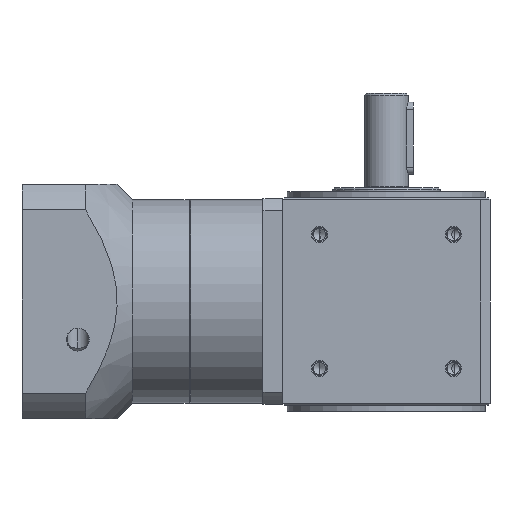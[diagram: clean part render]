
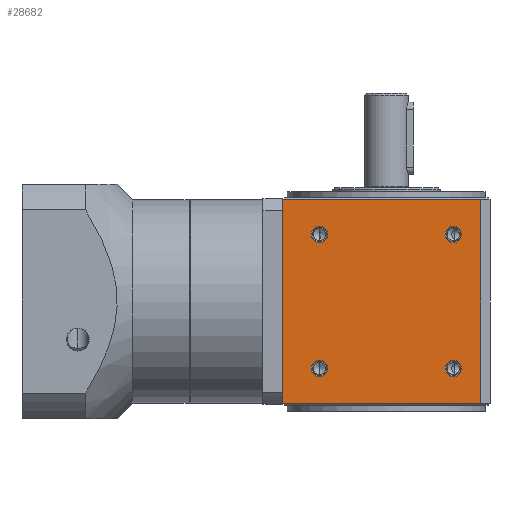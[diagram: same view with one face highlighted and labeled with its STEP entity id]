
A CAD part, front view. The second image highlights one B-rep face of the part: STEP entity #28682.
In plain terms, the highlighted planar face has unit normal (0, -1, 0).
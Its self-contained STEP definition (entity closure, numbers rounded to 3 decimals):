
#23321 = CARTESIAN_POINT ( 'NONE',  ( -37.123, -57.5, 98.123 ) ) ;
#23322 = CARTESIAN_POINT ( 'NONE',  ( -37.123, -57.5, 93.623 ) ) ;
#23402 = CIRCLE ( 'NONE', #23538, 4.5 ) ;
#23502 = CARTESIAN_POINT ( 'NONE',  ( -37.123, -57.5, 102.623 ) ) ;
#23503 = DIRECTION ( 'NONE',  ( 0., 0., 1. ) ) ;
#23504 = DIRECTION ( 'NONE',  ( 0., -1., 0. ) ) ;
#23505 = AXIS2_PLACEMENT_3D ( 'NONE', #23321, #23504, #23503 ) ;
#23506 = CIRCLE ( 'NONE', #23505, 4.5 ) ;
#23534 = CARTESIAN_POINT ( 'NONE',  ( -37.123, -57.5, 28.377 ) ) ;
#23535 = DIRECTION ( 'NONE',  ( 0., 0., 1. ) ) ;
#23536 = DIRECTION ( 'NONE',  ( 0., -1., 0. ) ) ;
#23537 = CARTESIAN_POINT ( 'NONE',  ( -37.123, -57.5, 23.877 ) ) ;
#23538 = AXIS2_PLACEMENT_3D ( 'NONE', #23537, #23536, #23535 ) ;
#23921 = CARTESIAN_POINT ( 'NONE',  ( 37.123, -57.5, 102.623 ) ) ;
#23922 = DIRECTION ( 'NONE',  ( 0., 0., 1. ) ) ;
#23923 = DIRECTION ( 'NONE',  ( 0., -1., 0. ) ) ;
#23924 = CARTESIAN_POINT ( 'NONE',  ( 37.123, -57.5, 98.123 ) ) ;
#23925 = AXIS2_PLACEMENT_3D ( 'NONE', #23924, #23923, #23922 ) ;
#23926 = CIRCLE ( 'NONE', #23925, 4.5 ) ;
#23927 = CARTESIAN_POINT ( 'NONE',  ( 37.123, -57.5, 93.623 ) ) ;
#24350 = DIRECTION ( 'NONE',  ( 0., 0., 1. ) ) ;
#24351 = DIRECTION ( 'NONE',  ( 0., -1., 0. ) ) ;
#24352 = CARTESIAN_POINT ( 'NONE',  ( -37.123, -57.5, 98.123 ) ) ;
#24353 = AXIS2_PLACEMENT_3D ( 'NONE', #24352, #24351, #24350 ) ;
#24354 = CIRCLE ( 'NONE', #24353, 4.5 ) ;
#24423 = DIRECTION ( 'NONE',  ( 0., 0., -1. ) ) ;
#24424 = DIRECTION ( 'NONE',  ( 0., 1., 0. ) ) ;
#24425 = AXIS2_PLACEMENT_3D ( 'NONE', #24427, #24424, #24423 ) ;
#24427 = CARTESIAN_POINT ( 'NONE',  ( 57.5, -57.5, 122. ) ) ;
#24428 = PLANE ( 'NONE',  #24425 ) ;
#24429 = FACE_OUTER_BOUND ( 'NONE', #28651, .T. ) ;
#24430 = FACE_BOUND ( 'NONE', #28706, .T. ) ;
#24431 = FACE_BOUND ( 'NONE', #28702, .T. ) ;
#24432 = FACE_BOUND ( 'NONE', #28785, .T. ) ;
#24433 = FACE_BOUND ( 'NONE', #28683, .T. ) ;
#24541 = CARTESIAN_POINT ( 'NONE',  ( -57.501, -57.5, 4.5 ) ) ;
#24542 = DIRECTION ( 'NONE',  ( 0., 0., 1. ) ) ;
#24543 = VECTOR ( 'NONE', #24542, 1000. ) ;
#24544 = CARTESIAN_POINT ( 'NONE',  ( -57.501, -57.5, 118.5 ) ) ;
#24545 = LINE ( 'NONE', #24544, #24543 ) ;
#24546 = DIRECTION ( 'NONE',  ( 0., 0., 1. ) ) ;
#24547 = DIRECTION ( 'NONE',  ( 0., -1., 0. ) ) ;
#24548 = CARTESIAN_POINT ( 'NONE',  ( 37.123, -57.5, 98.123 ) ) ;
#24549 = AXIS2_PLACEMENT_3D ( 'NONE', #24548, #24547, #24546 ) ;
#24550 = CIRCLE ( 'NONE', #24549, 4.5 ) ;
#24611 = DIRECTION ( 'NONE',  ( 0., 0., 1. ) ) ;
#24612 = DIRECTION ( 'NONE',  ( 0., -1., 0. ) ) ;
#24613 = CARTESIAN_POINT ( 'NONE',  ( -37.123, -57.5, 23.877 ) ) ;
#24614 = AXIS2_PLACEMENT_3D ( 'NONE', #24613, #24612, #24611 ) ;
#24615 = CIRCLE ( 'NONE', #24614, 4.5 ) ;
#24760 = DIRECTION ( 'NONE',  ( 0., 0., 1. ) ) ;
#24761 = DIRECTION ( 'NONE',  ( 0., -1., 0. ) ) ;
#24762 = CARTESIAN_POINT ( 'NONE',  ( 37.123, -57.5, 23.877 ) ) ;
#24763 = AXIS2_PLACEMENT_3D ( 'NONE', #24762, #24761, #24760 ) ;
#24764 = CIRCLE ( 'NONE', #24763, 4.5 ) ;
#24765 = DIRECTION ( 'NONE',  ( -1., 0., 0. ) ) ;
#24766 = VECTOR ( 'NONE', #24765, 1000. ) ;
#24767 = CARTESIAN_POINT ( 'NONE',  ( -57.501, -57.5, 117.5 ) ) ;
#24768 = LINE ( 'NONE', #24767, #24766 ) ;
#24769 = CARTESIAN_POINT ( 'NONE',  ( 52.5, -57.5, 117.5 ) ) ;
#24770 = DIRECTION ( 'NONE',  ( 0., 0., 1. ) ) ;
#24771 = VECTOR ( 'NONE', #24770, 1000. ) ;
#24772 = CARTESIAN_POINT ( 'NONE',  ( 52.5, -57.5, 122. ) ) ;
#24773 = LINE ( 'NONE', #24772, #24771 ) ;
#24774 = CARTESIAN_POINT ( 'NONE',  ( 52.5, -57.5, 4.5 ) ) ;
#24775 = DIRECTION ( 'NONE',  ( 1., 0., 0. ) ) ;
#24776 = VECTOR ( 'NONE', #24775, 1000. ) ;
#24777 = CARTESIAN_POINT ( 'NONE',  ( 52.5, -57.5, 4.5 ) ) ;
#24778 = LINE ( 'NONE', #24777, #24776 ) ;
#24779 = CARTESIAN_POINT ( 'NONE',  ( -57.501, -57.5, 117.5 ) ) ;
#28178 = VERTEX_POINT ( 'NONE', #23322 ) ;
#28180 = EDGE_CURVE ( 'NONE', #28178, #28181, #23506, .T. ) ;
#28181 = VERTEX_POINT ( 'NONE', #23502 ) ;
#28203 = EDGE_CURVE ( 'NONE', #28264, #28204, #23402, .T. ) ;
#28204 = VERTEX_POINT ( 'NONE', #23534 ) ;
#28264 = VERTEX_POINT ( 'NONE', #29466 ) ;
#28289 = VERTEX_POINT ( 'NONE', #29179 ) ;
#28292 = EDGE_CURVE ( 'NONE', #28289, #28322, #29171, .T. ) ;
#28322 = VERTEX_POINT ( 'NONE', #29376 ) ;
#28366 = VERTEX_POINT ( 'NONE', #23927 ) ;
#28368 = EDGE_CURVE ( 'NONE', #28366, #28369, #23926, .T. ) ;
#28369 = VERTEX_POINT ( 'NONE', #23921 ) ;
#28648 = ORIENTED_EDGE ( 'NONE', *, *, #28649, .F. ) ;
#28649 = EDGE_CURVE ( 'NONE', #28369, #28366, #24550, .T. ) ;
#28650 = ORIENTED_EDGE ( 'NONE', *, *, #28368, .F. ) ;
#28651 = EDGE_LOOP ( 'NONE', ( #28652, #28774, #28777, #28780 ) ) ;
#28652 = ORIENTED_EDGE ( 'NONE', *, *, #28653, .F. ) ;
#28653 = EDGE_CURVE ( 'NONE', #28654, #28773, #24545, .T. ) ;
#28654 = VERTEX_POINT ( 'NONE', #24541 ) ;
#28682 = ADVANCED_FACE ( 'NONE', ( #24433, #24432, #24431, #24430, #24429 ), #24428, .F. ) ;
#28683 = EDGE_LOOP ( 'NONE', ( #28782, #28784 ) ) ;
#28701 = ORIENTED_EDGE ( 'NONE', *, *, #28203, .F. ) ;
#28702 = EDGE_LOOP ( 'NONE', ( #28703, #28705 ) ) ;
#28703 = ORIENTED_EDGE ( 'NONE', *, *, #28704, .F. ) ;
#28704 = EDGE_CURVE ( 'NONE', #28181, #28178, #24354, .T. ) ;
#28705 = ORIENTED_EDGE ( 'NONE', *, *, #28180, .F. ) ;
#28706 = EDGE_LOOP ( 'NONE', ( #28648, #28650 ) ) ;
#28773 = VERTEX_POINT ( 'NONE', #24779 ) ;
#28774 = ORIENTED_EDGE ( 'NONE', *, *, #28775, .T. ) ;
#28775 = EDGE_CURVE ( 'NONE', #28654, #28776, #24778, .T. ) ;
#28776 = VERTEX_POINT ( 'NONE', #24774 ) ;
#28777 = ORIENTED_EDGE ( 'NONE', *, *, #28778, .T. ) ;
#28778 = EDGE_CURVE ( 'NONE', #28776, #28779, #24773, .T. ) ;
#28779 = VERTEX_POINT ( 'NONE', #24769 ) ;
#28780 = ORIENTED_EDGE ( 'NONE', *, *, #28781, .T. ) ;
#28781 = EDGE_CURVE ( 'NONE', #28779, #28773, #24768, .T. ) ;
#28782 = ORIENTED_EDGE ( 'NONE', *, *, #28783, .F. ) ;
#28783 = EDGE_CURVE ( 'NONE', #28322, #28289, #24764, .T. ) ;
#28784 = ORIENTED_EDGE ( 'NONE', *, *, #28292, .F. ) ;
#28785 = EDGE_LOOP ( 'NONE', ( #28786, #28701 ) ) ;
#28786 = ORIENTED_EDGE ( 'NONE', *, *, #28787, .F. ) ;
#28787 = EDGE_CURVE ( 'NONE', #28204, #28264, #24615, .T. ) ;
#29167 = DIRECTION ( 'NONE',  ( 0., 0., 1. ) ) ;
#29168 = DIRECTION ( 'NONE',  ( 0., -1., 0. ) ) ;
#29169 = CARTESIAN_POINT ( 'NONE',  ( 37.123, -57.5, 23.877 ) ) ;
#29170 = AXIS2_PLACEMENT_3D ( 'NONE', #29169, #29168, #29167 ) ;
#29171 = CIRCLE ( 'NONE', #29170, 4.5 ) ;
#29179 = CARTESIAN_POINT ( 'NONE',  ( 37.123, -57.5, 19.377 ) ) ;
#29376 = CARTESIAN_POINT ( 'NONE',  ( 37.123, -57.5, 28.377 ) ) ;
#29466 = CARTESIAN_POINT ( 'NONE',  ( -37.123, -57.5, 19.377 ) ) ;
